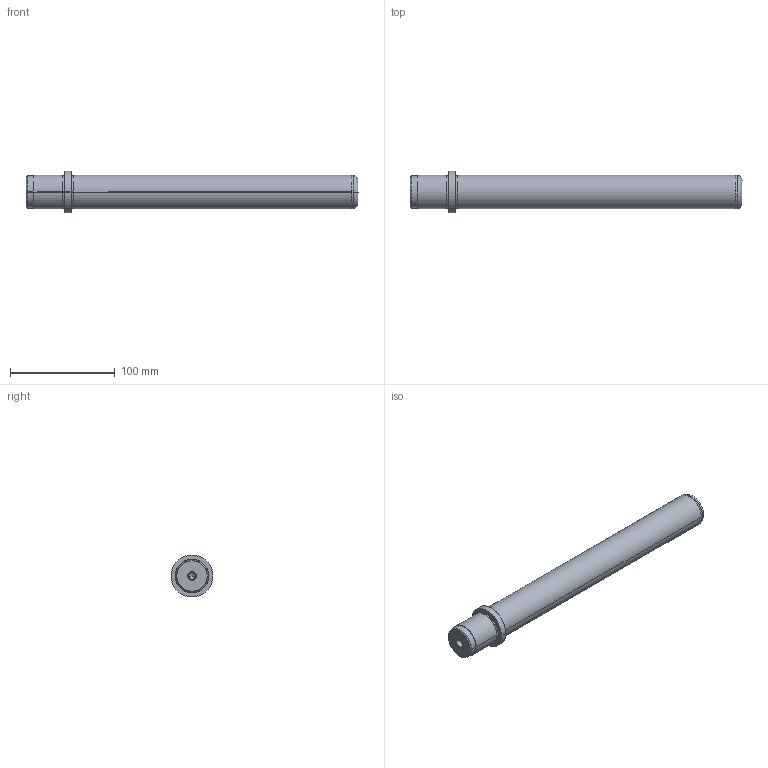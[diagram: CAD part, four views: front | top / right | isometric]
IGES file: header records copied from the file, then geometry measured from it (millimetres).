
Start section: SolidWorks IGES FILE using analytic representation for surfaces
Global section: file name: D:\zzzzz\Delta\D06\32\D06 - 32x280x37.IGS; native system: SolidWorks 2004 by SolidWorks Corporation; preprocessor: Version 5.3; author: Hkn; date: 080327.150924; units: millimetre
Bounding box: 317 x 40 x 40 mm (x, y, z)
Surface area: 35580.4 mm2 (no closed solid volume)
Topology: 0 solids, 0 shells, 39 faces, 1048 edges, 1044 vertices
Faces by surface type: revolution 28, bspline 11
